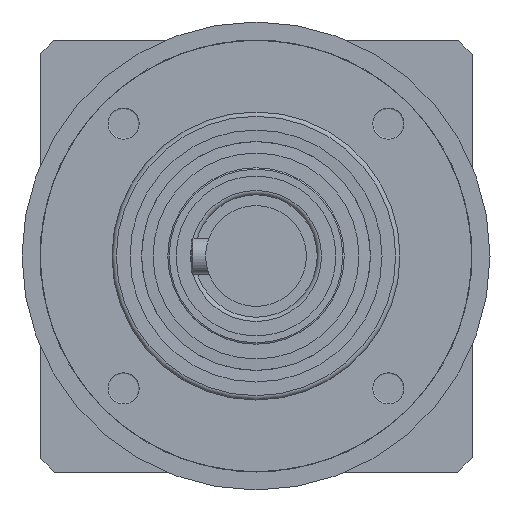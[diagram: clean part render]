
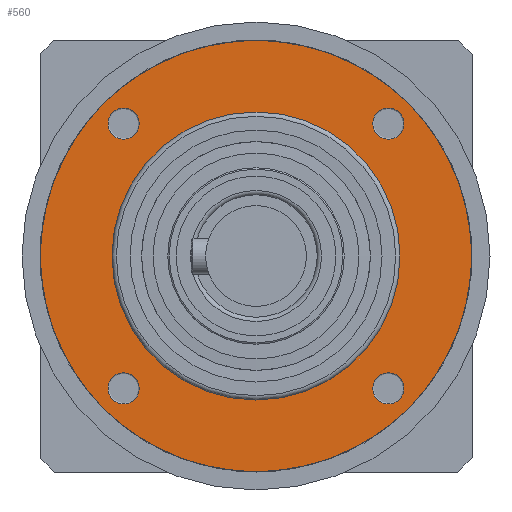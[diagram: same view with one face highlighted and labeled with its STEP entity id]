
A CAD part, left-side view. The second image highlights one B-rep face of the part: STEP entity #560.
In plain terms, the highlighted planar face has unit normal (-1, 0, 0).
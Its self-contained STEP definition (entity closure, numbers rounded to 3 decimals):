
#408=FACE_BOUND('',#862,.T.);
#409=FACE_BOUND('',#863,.T.);
#410=FACE_BOUND('',#864,.T.);
#411=FACE_BOUND('',#865,.T.);
#412=FACE_BOUND('',#866,.T.);
#560=ADVANCED_FACE('',(#408,#409,#410,#411,#412),#621,.T.);
#621=PLANE('',#2035);
#862=EDGE_LOOP('',(#1322));
#863=EDGE_LOOP('',(#1323));
#864=EDGE_LOOP('',(#1324));
#865=EDGE_LOOP('',(#1325));
#866=EDGE_LOOP('',(#1326));
#1322=ORIENTED_EDGE('',*,*,#1676,.T.);
#1323=ORIENTED_EDGE('',*,*,#1677,.T.);
#1324=ORIENTED_EDGE('',*,*,#1678,.T.);
#1325=ORIENTED_EDGE('',*,*,#1679,.T.);
#1326=ORIENTED_EDGE('',*,*,#1680,.T.);
#1496=VERTEX_POINT('',#3112);
#1497=VERTEX_POINT('',#3114);
#1498=VERTEX_POINT('',#3116);
#1499=VERTEX_POINT('',#3118);
#1500=VERTEX_POINT('',#3120);
#1676=EDGE_CURVE('',#1496,#1496,#1795,.T.);
#1677=EDGE_CURVE('',#1497,#1497,#1796,.T.);
#1678=EDGE_CURVE('',#1498,#1498,#1797,.T.);
#1679=EDGE_CURVE('',#1499,#1499,#1798,.T.);
#1680=EDGE_CURVE('',#1500,#1500,#1799,.T.);
#1795=CIRCLE('',#2030,2.175);
#1796=CIRCLE('',#2031,2.175);
#1797=CIRCLE('',#2032,2.175);
#1798=CIRCLE('',#2033,2.175);
#1799=CIRCLE('',#2034,30.);
#2030=AXIS2_PLACEMENT_3D('',#3111,#2556,#2557);
#2031=AXIS2_PLACEMENT_3D('',#3113,#2558,#2559);
#2032=AXIS2_PLACEMENT_3D('',#3115,#2560,#2561);
#2033=AXIS2_PLACEMENT_3D('',#3117,#2562,#2563);
#2034=AXIS2_PLACEMENT_3D('',#3119,#2564,#2565);
#2035=AXIS2_PLACEMENT_3D('',#3121,#2566,#2567);
#2556=DIRECTION('',(1.,0.,0.));
#2557=DIRECTION('',(0.,-0.707,-0.707));
#2558=DIRECTION('',(1.,0.,0.));
#2559=DIRECTION('',(0.,0.707,-0.707));
#2560=DIRECTION('',(1.,0.,0.));
#2561=DIRECTION('',(0.,0.707,0.707));
#2562=DIRECTION('',(1.,0.,0.));
#2563=DIRECTION('',(0.,-0.707,0.707));
#2564=DIRECTION('',(-1.,0.,0.));
#2565=DIRECTION('',(0.,-0.707,0.707));
#2566=DIRECTION('',(-1.,0.,0.));
#2567=DIRECTION('',(0.,-0.707,0.707));
#3111=CARTESIAN_POINT('',(-90.95,-18.385,18.385));
#3112=CARTESIAN_POINT('',(-90.95,-19.923,16.847));
#3113=CARTESIAN_POINT('',(-90.95,-18.385,-18.385));
#3114=CARTESIAN_POINT('',(-90.95,-16.847,-19.923));
#3115=CARTESIAN_POINT('',(-90.95,18.385,-18.385));
#3116=CARTESIAN_POINT('',(-90.95,19.923,-16.847));
#3117=CARTESIAN_POINT('',(-90.95,18.385,18.385));
#3118=CARTESIAN_POINT('',(-90.95,16.847,19.923));
#3119=CARTESIAN_POINT('',(-90.95,0.,0.));
#3120=CARTESIAN_POINT('',(-90.95,-21.213,21.213));
#3121=CARTESIAN_POINT('',(-90.95,0.,0.));
